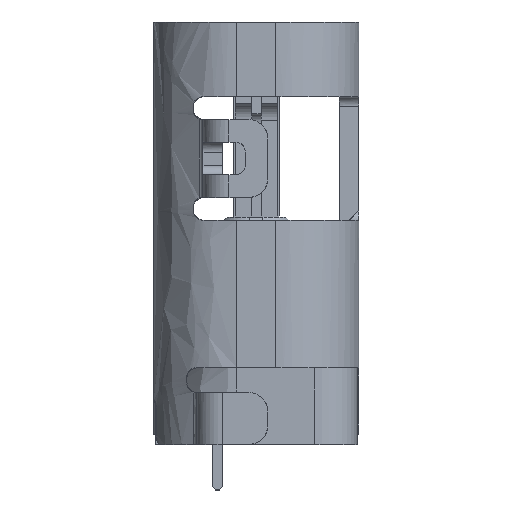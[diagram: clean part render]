
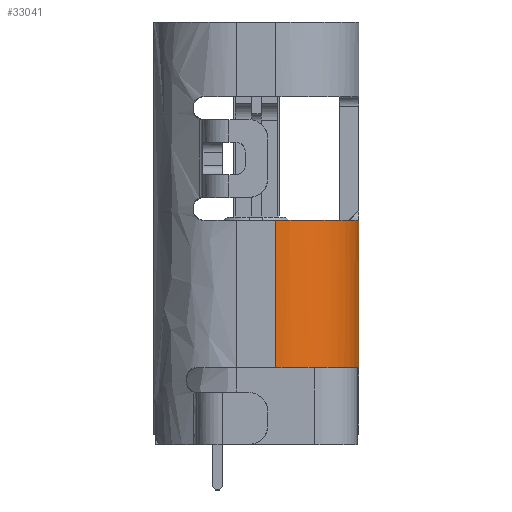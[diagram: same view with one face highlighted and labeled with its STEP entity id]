
A CAD part, left-side view. The second image highlights one B-rep face of the part: STEP entity #33041.
In plain terms, the highlighted free-form (B-spline) face has degree [1, 3] with [2, 4] control points.
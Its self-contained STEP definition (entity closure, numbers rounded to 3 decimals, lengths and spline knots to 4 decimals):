
#379 = CARTESIAN_POINT ( 'NONE',  ( -5.5405, -0.2989, 5.3125 ) ) ;
#1410 = EDGE_CURVE ( 'NONE', #8537, #34095, #5071, .T. ) ;
#2013 = CARTESIAN_POINT ( 'NONE',  ( -4.2605, -1.4091, 7.5825 ) ) ;
#2481 =( BOUNDED_SURFACE ( )  B_SPLINE_SURFACE ( 1, 3, ( 
 ( #17419, #17774, #23058, #20689 ),
 ( #15042, #12163, #17603, #28676 ) ),
 .UNSPECIFIED., .F., .F., .F. ) 
 B_SPLINE_SURFACE_WITH_KNOTS ( ( 2, 2 ),
 ( 4, 4 ),
 ( 0.0192, 0.9808 ),
 ( 0., 1. ),
 .UNSPECIFIED. ) 
 GEOMETRIC_REPRESENTATION_ITEM ( )  RATIONAL_B_SPLINE_SURFACE ( (
 ( 1., 0.805, 0.805, 1.),
 ( 1., 0.805, 0.805, 1.) ) ) 
 REPRESENTATION_ITEM ( '' )  SURFACE ( )  );
#3269 = CARTESIAN_POINT ( 'NONE',  ( -5.3781, -0.7757, 5.3125 ) ) ;
#3446 = CARTESIAN_POINT ( 'NONE',  ( -5.2856, -0.9142, 5.3125 ) ) ;
#3708 = EDGE_CURVE ( 'NONE', #21124, #8537, #6416, .T. ) ;
#3965 = ORIENTED_EDGE ( 'NONE', *, *, #3708, .F. ) ;
#5071 = B_SPLINE_CURVE_WITH_KNOTS ( 'NONE', 1,
 ( #32409, #35458 ),
 .UNSPECIFIED., .F., .F.,
 ( 2, 2 ),
 ( 0., 1. ),
 .UNSPECIFIED. ) ;
#5353 = CARTESIAN_POINT ( 'NONE',  ( -4.9071, -1.2467, 7.5825 ) ) ;
#5806 = CARTESIAN_POINT ( 'NONE',  ( -5.508, -0.4621, 5.3125 ) ) ;
#5987 = CARTESIAN_POINT ( 'NONE',  ( -5.0456, -1.1542, 5.3125 ) ) ;
#6416 = B_SPLINE_CURVE_WITH_KNOTS ( 'NONE', 3,
 ( #8802, #13511, #10811, #17138, #27838, #30552, #5353, #19136, #27480, #19678 ),
 .UNSPECIFIED., .F., .F.,
 ( 4, 2, 2, 2, 4 ),
 ( 0., 0.25, 0.5, 0.75, 1. ),
 .UNSPECIFIED. ) ;
#8537 = VERTEX_POINT ( 'NONE', #2013 ) ;
#8707 = CARTESIAN_POINT ( 'NONE',  ( -5.5405, -0.1291, 5.3125 ) ) ;
#8802 = CARTESIAN_POINT ( 'NONE',  ( -5.5405, -0.1291, 7.5825 ) ) ;
#10788 = B_SPLINE_CURVE_WITH_KNOTS ( 'NONE', 1,
 ( #15095, #29255 ),
 .UNSPECIFIED., .F., .F.,
 ( 2, 2 ),
 ( 0., 1. ),
 .UNSPECIFIED. ) ;
#10811 = CARTESIAN_POINT ( 'NONE',  ( -5.508, -0.4621, 7.5825 ) ) ;
#11438 = CARTESIAN_POINT ( 'NONE',  ( -4.9071, -1.2467, 5.3125 ) ) ;
#12163 = CARTESIAN_POINT ( 'NONE',  ( -5.5405, -0.8789, 7.5825 ) ) ;
#13511 = CARTESIAN_POINT ( 'NONE',  ( -5.5405, -0.2989, 7.5825 ) ) ;
#14489 = CARTESIAN_POINT ( 'NONE',  ( -4.5935, -1.3766, 5.3125 ) ) ;
#15042 = CARTESIAN_POINT ( 'NONE',  ( -5.5405, -0.1291, 7.5825 ) ) ;
#15095 = CARTESIAN_POINT ( 'NONE',  ( -5.5405, -0.1291, 5.3125 ) ) ;
#17138 = CARTESIAN_POINT ( 'NONE',  ( -5.3781, -0.7758, 7.5825 ) ) ;
#17419 = CARTESIAN_POINT ( 'NONE',  ( -5.5405, -0.1291, 5.3125 ) ) ;
#17603 = CARTESIAN_POINT ( 'NONE',  ( -5.0103, -1.4091, 7.5825 ) ) ;
#17720 = ORIENTED_EDGE ( 'NONE', *, *, #35191, .F. ) ;
#17774 = CARTESIAN_POINT ( 'NONE',  ( -5.5405, -0.8789, 5.3125 ) ) ;
#18868 = CARTESIAN_POINT ( 'NONE',  ( -5.5405, -0.1291, 5.3125 ) ) ;
#19136 = CARTESIAN_POINT ( 'NONE',  ( -4.5935, -1.3766, 7.5825 ) ) ;
#19584 = CARTESIAN_POINT ( 'NONE',  ( -4.4302, -1.4091, 5.3125 ) ) ;
#19678 = CARTESIAN_POINT ( 'NONE',  ( -4.2605, -1.4091, 7.5825 ) ) ;
#20689 = CARTESIAN_POINT ( 'NONE',  ( -4.2605, -1.4091, 5.3125 ) ) ;
#21124 = VERTEX_POINT ( 'NONE', #32322 ) ;
#21549 = VERTEX_POINT ( 'NONE', #18868 ) ;
#22957 = EDGE_LOOP ( 'NONE', ( #27130, #24542, #3965, #17720 ) ) ;
#23058 = CARTESIAN_POINT ( 'NONE',  ( -5.0103, -1.4091, 5.3125 ) ) ;
#23572 = EDGE_CURVE ( 'NONE', #34095, #21549, #35300, .T. ) ;
#24542 = ORIENTED_EDGE ( 'NONE', *, *, #1410, .F. ) ;
#27130 = ORIENTED_EDGE ( 'NONE', *, *, #23572, .F. ) ;
#27480 = CARTESIAN_POINT ( 'NONE',  ( -4.4302, -1.4091, 7.5825 ) ) ;
#27838 = CARTESIAN_POINT ( 'NONE',  ( -5.2856, -0.9142, 7.5825 ) ) ;
#28676 = CARTESIAN_POINT ( 'NONE',  ( -4.2605, -1.4091, 7.5825 ) ) ;
#29255 = CARTESIAN_POINT ( 'NONE',  ( -5.5405, -0.1291, 7.5825 ) ) ;
#30552 = CARTESIAN_POINT ( 'NONE',  ( -5.0455, -1.1542, 7.5825 ) ) ;
#31202 = FACE_OUTER_BOUND ( 'NONE', #22957, .T. ) ;
#32322 = CARTESIAN_POINT ( 'NONE',  ( -5.5405, -0.1291, 7.5825 ) ) ;
#32409 = CARTESIAN_POINT ( 'NONE',  ( -4.2605, -1.4091, 7.5825 ) ) ;
#33041 = ADVANCED_FACE ( 'NONE', ( #31202 ), #2481, .F. ) ;
#33523 = CARTESIAN_POINT ( 'NONE',  ( -4.2605, -1.4091, 5.3125 ) ) ;
#33787 = CARTESIAN_POINT ( 'NONE',  ( -4.2605, -1.4091, 5.3125 ) ) ;
#34095 = VERTEX_POINT ( 'NONE', #33787 ) ;
#35191 = EDGE_CURVE ( 'NONE', #21549, #21124, #10788, .T. ) ;
#35300 = B_SPLINE_CURVE_WITH_KNOTS ( 'NONE', 3,
 ( #33523, #19584, #14489, #11438, #5987, #3446, #3269, #5806, #379, #8707 ),
 .UNSPECIFIED., .F., .F.,
 ( 4, 2, 2, 2, 4 ),
 ( 0., 0.25, 0.5, 0.75, 1. ),
 .UNSPECIFIED. ) ;
#35458 = CARTESIAN_POINT ( 'NONE',  ( -4.2605, -1.4091, 5.3125 ) ) ;
